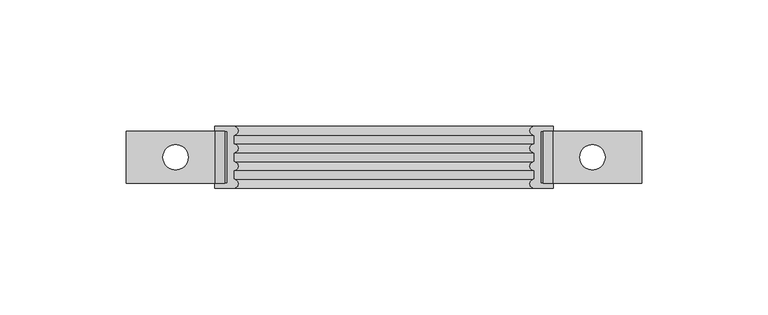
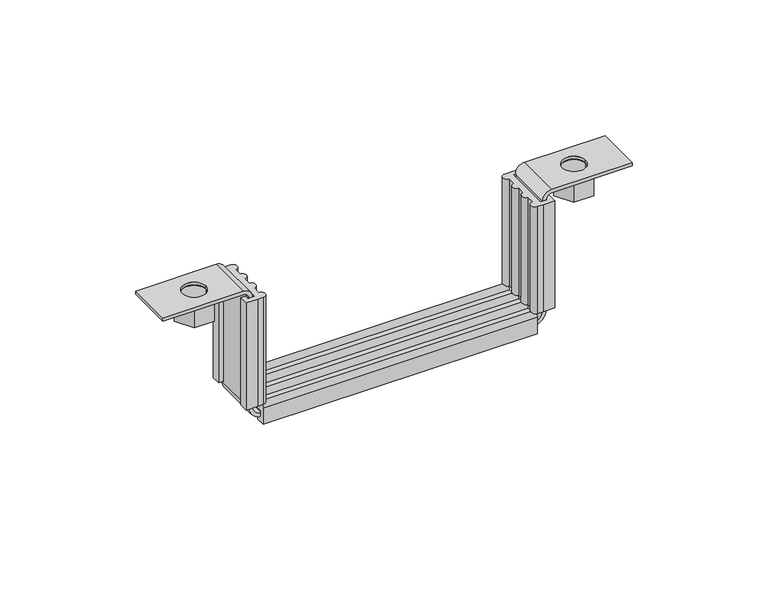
"""IFC4 building model written with IfcOpenShell, lengths in millimetres: pipe fitting geometry, AmancoWavin_ConexõesdeTubos_EsgotoSilentiumNãoUsarSuporteCaixa : Zincado."""

from ifc_helpers import new_model, si_unit, point, frame, frame_2d, origin, place, context, project, spatial, polyline, circle_curve, trimmed, segment, composite_curve, outline, extrude, source, transform, mapped, element, save
from ifc_brep_helpers import plane_surface, cylinder_surface, revolved_surface, advanced_brep


def pipe_fitting_c9efb842(model_context):
    return source(origin(), model_context, "Body", "SolidModel", [
        extrude(outline(polyline([(86.825, 7.5), (91.155127, 0.0), (86.825, -7.5), (78.164746, -7.5), (73.8346189, 0.0), (78.164746, 7.5), (86.825, 7.5)]), holes=[composite_curve([segment(trimmed(circle_curve(frame_2d((82.5, 0.0)), 5.0), [point((77.5, 0.0))], [point((87.5, 0.0))], True, "CARTESIAN"), True, "CONTINUOUS"), segment(trimmed(circle_curve(frame_2d((82.5, 0.0)), 5.0), [point((87.5, 0.0))], [point((77.5, 0.0))], True, "CARTESIAN"), True, "CONTINUOUS")], self_intersect=False)]), frame((0.0, 0.0, 47.75), z_axis=(0.0, 0.0, 1.0), x_axis=(1.0, 0.0, 0.0)), (0.0, 0.0, 1.0), 10.0),
        extrude(outline(polyline([(-78.175, 7.5), (-73.844873, 0.0), (-78.175, -7.5), (-86.835254, -7.5), (-91.1653811, 0.0), (-86.835254, 7.5), (-78.175, 7.5)]), holes=[composite_curve([segment(trimmed(circle_curve(frame_2d((-82.5, 0.0)), 5.0), [point((-87.5, 0.0))], [point((-77.5, 0.0))], True, "CARTESIAN"), True, "CONTINUOUS"), segment(trimmed(circle_curve(frame_2d((-82.5, 0.0)), 5.0), [point((-77.5, 0.0))], [point((-87.5, 0.0))], True, "CARTESIAN"), True, "CONTINUOUS")], self_intersect=False)]), frame((0.0, 0.0, 47.75), z_axis=(0.0, 0.0, 1.0), x_axis=(1.0, 0.0, 0.0)), (0.0, 0.0, 1.0), 10.0),
        extrude(outline(composite_curve([segment(polyline([(12.25, -3.25), (8.25, -3.25), (8.25, -1.25), (10.25, -1.25), (10.25, 1.75), (-10.25, 1.75), (-10.25, -1.25), (-8.25, -1.25), (-8.25, -3.25), (-12.25, -3.25), (-12.25, 4.25)]), True, "CONTINUOUS"), segment(trimmed(circle_curve(frame_2d((-10.5, 4.25)), 1.75), [point((-12.25, 4.25))], [point((-8.75, 4.25))], False, "CARTESIAN"), True, "CONTINUOUS"), segment(polyline([(-8.75, 4.25), (-5.25, 4.25)]), True, "CONTINUOUS"), segment(trimmed(circle_curve(frame_2d((-3.5, 4.25)), 1.75), [point((-5.25, 4.25))], [point((-1.75, 4.25))], False, "CARTESIAN"), True, "CONTINUOUS"), segment(polyline([(-1.75, 4.25), (1.75, 4.25)]), True, "CONTINUOUS"), segment(trimmed(circle_curve(frame_2d((3.5, 4.25)), 1.75), [point((1.75, 4.25))], [point((5.25, 4.25))], False, "CARTESIAN"), True, "CONTINUOUS"), segment(polyline([(5.25, 4.25), (8.75, 4.25)]), True, "CONTINUOUS"), segment(trimmed(circle_curve(frame_2d((10.5, 4.25)), 1.75), [point((8.75, 4.25))], [point((12.25, 4.25))], False, "CARTESIAN"), True, "CONTINUOUS"), segment(polyline([(12.25, 4.25), (12.25, -3.25)]), True, "CONTINUOUS")], self_intersect=False)), frame((-59.5, 0.0, 0.0), z_axis=(1.0, 0.0, 0.0), x_axis=(0.0, 1.0, 0.0)), (0.0, 0.0, 1.0), 119.0),
        extrude(outline(composite_curve([segment(polyline([(-62.0, 10.25), (-65.0, 10.25), (-65.0, 8.25), (-67.0, 8.25), (-67.0, 12.25), (-62.0, 12.25), (-59.5, 12.25)]), True, "CONTINUOUS"), segment(trimmed(circle_curve(frame_2d((-59.5, 10.5)), 1.75), [point((-59.5, 12.25))], [point((-59.5, 8.75))], False, "CARTESIAN"), True, "CONTINUOUS"), segment(polyline([(-59.5, 8.75), (-59.5, 5.25)]), True, "CONTINUOUS"), segment(trimmed(circle_curve(frame_2d((-59.5, 3.5)), 1.75), [point((-59.5, 5.25))], [point((-59.5, 1.75))], False, "CARTESIAN"), True, "CONTINUOUS"), segment(polyline([(-59.5, 1.75), (-59.5, -1.75)]), True, "CONTINUOUS"), segment(trimmed(circle_curve(frame_2d((-59.5, -3.5)), 1.75), [point((-59.5, -1.75))], [point((-59.5, -5.25))], False, "CARTESIAN"), True, "CONTINUOUS"), segment(polyline([(-59.5, -5.25), (-59.5, -8.75)]), True, "CONTINUOUS"), segment(trimmed(circle_curve(frame_2d((-59.5, -10.5)), 1.75), [point((-59.5, -8.75))], [point((-59.5, -12.25))], False, "CARTESIAN"), True, "CONTINUOUS"), segment(polyline([(-59.5, -12.25), (-62.0, -12.25), (-67.0, -12.25), (-67.0, -8.25), (-65.0, -8.25), (-65.0, -10.25), (-62.0, -10.25), (-62.0, 10.25)]), True, "CONTINUOUS")], self_intersect=False)), frame((0.0, 0.0, 6.0), z_axis=(0.0, 0.0, 1.0), x_axis=(1.0, 0.0, 0.0)), (0.0, 0.0, 1.0), 49.2),
        extrude(outline(composite_curve([segment(polyline([(62.0, 10.25), (62.0, -10.25), (65.0, -10.25), (65.0, -8.25), (67.0, -8.25), (67.0, -12.25), (62.0, -12.25), (59.5, -12.25)]), True, "CONTINUOUS"), segment(trimmed(circle_curve(frame_2d((59.5, -10.5)), 1.75), [point((59.5, -12.25))], [point((59.5, -8.75))], False, "CARTESIAN"), True, "CONTINUOUS"), segment(polyline([(59.5, -8.75), (59.5, -5.25)]), True, "CONTINUOUS"), segment(trimmed(circle_curve(frame_2d((59.5, -3.5)), 1.75), [point((59.5, -5.25))], [point((59.5, -1.75))], False, "CARTESIAN"), True, "CONTINUOUS"), segment(polyline([(59.5, -1.75), (59.5, 1.75)]), True, "CONTINUOUS"), segment(trimmed(circle_curve(frame_2d((59.5, 3.5)), 1.75), [point((59.5, 1.75))], [point((59.5, 5.25))], False, "CARTESIAN"), True, "CONTINUOUS"), segment(polyline([(59.5, 5.25), (59.5, 8.75)]), True, "CONTINUOUS"), segment(trimmed(circle_curve(frame_2d((59.5, 10.5)), 1.75), [point((59.5, 8.75))], [point((59.5, 12.25))], False, "CARTESIAN"), True, "CONTINUOUS"), segment(polyline([(59.5, 12.25), (62.0, 12.25), (67.0, 12.25), (67.0, 8.25), (65.0, 8.25), (65.0, 10.25), (62.0, 10.25)]), True, "CONTINUOUS")], self_intersect=False)), frame((0.0, 0.0, 6.0), z_axis=(0.0, 0.0, 1.0), x_axis=(1.0, 0.0, 0.0)), (0.0, 0.0, 1.0), 49.2),
        advanced_brep(
        [(-67.0, 10.25, 59.25), (-63.0, 10.25, 55.25), (-63.0, 10.25, 4.75), (-59.0, 10.25, 0.75), (59.0, 10.25, 0.75), (63.0, 10.25, 4.75), (63.0, 10.25, 55.25), (67.0, 10.25, 59.25), (102.0, 10.25, 59.25), (102.0, 10.25, 57.75), (67.0, 10.25, 57.75), (64.5, 10.25, 55.25), (64.5, 10.25, 4.75), (59.0, 10.25, -0.75), (-59.0, 10.25, -0.75), (-64.5, 10.25, 4.75), (-64.5, 10.25, 55.25), (-67.0, 10.25, 57.75), (-102.0, 10.25, 57.75), (-102.0, 10.25, 59.25), (-67.0, -10.25, 59.25), (-102.0, -10.25, 59.25), (-102.0, -10.25, 57.75), (-67.0, -10.25, 57.75), (-64.5, -10.25, 55.25), (-64.5, -10.25, 4.75), (-59.0, -10.25, -0.75), (59.0, -10.25, -0.75), (64.5, -10.25, 4.75), (64.5, -10.25, 55.25), (67.0, -10.25, 57.75), (102.0, -10.25, 57.75), (102.0, -10.25, 59.25), (67.0, -10.25, 59.25), (63.0, -10.25, 55.25), (63.0, -10.25, 4.75), (59.0, -10.25, 0.75), (-59.0, -10.25, 0.75), (-63.0, -10.25, 4.75), (-63.0, -10.25, 55.25), (-77.5, 0.0, 59.25), (-87.5, 0.0, 59.25), (-87.5, 0.0, 57.75), (-77.5, 0.0, 57.75), (77.5, 0.0, 57.75), (87.5, 0.0, 57.75), (87.5, 0.0, 59.25), (77.5, 0.0, 59.25)],
        [
            (0, 1, circle_curve(frame((-67.0, 10.25, 55.25), z_axis=(0.0, 1.0, 0.0), x_axis=(1.0, 0.0, 0.0)), 4.0)),
            (1, 2),
            (2, 3, circle_curve(frame((-59.0, 10.25, 4.75), z_axis=(0.0, -1.0, 0.0), x_axis=(1.0, 0.0, 0.0)), 4.0)),
            (3, 4),
            (4, 5, circle_curve(frame((59.0, 10.25, 4.75), z_axis=(0.0, -1.0, 0.0), x_axis=(1.0, 0.0, 0.0)), 4.0)),
            (5, 6),
            (6, 7, circle_curve(frame((67.0, 10.25, 55.25), z_axis=(0.0, 1.0, 0.0), x_axis=(1.0, 0.0, 0.0)), 4.0)),
            (7, 8),
            (8, 9),
            (9, 10),
            (10, 11, circle_curve(frame((67.0, 10.25, 55.25), z_axis=(0.0, -1.0, 0.0), x_axis=(1.0, 0.0, 0.0)), 2.5)),
            (11, 12),
            (12, 13, circle_curve(frame((59.0, 10.25, 4.75), z_axis=(0.0, 1.0, 0.0), x_axis=(1.0, 0.0, 0.0)), 5.5)),
            (13, 14),
            (14, 15, circle_curve(frame((-59.0, 10.25, 4.75), z_axis=(0.0, 1.0, 0.0), x_axis=(1.0, 0.0, 0.0)), 5.5)),
            (15, 16),
            (16, 17, circle_curve(frame((-67.0, 10.25, 55.25), z_axis=(0.0, -1.0, 0.0), x_axis=(1.0, 0.0, 0.0)), 2.5)),
            (17, 18),
            (18, 19),
            (19, 0),
            (20, 21),
            (21, 22),
            (22, 23),
            (23, 24, circle_curve(frame((-67.0, -10.25, 55.25), z_axis=(0.0, 1.0, 0.0), x_axis=(1.0, 0.0, 0.0)), 2.5)),
            (24, 25),
            (25, 26, circle_curve(frame((-59.0, -10.25, 4.75), z_axis=(0.0, -1.0, 0.0), x_axis=(1.0, 0.0, 0.0)), 5.5)),
            (26, 27),
            (27, 28, circle_curve(frame((59.0, -10.25, 4.75), z_axis=(0.0, -1.0, 0.0), x_axis=(1.0, 0.0, 0.0)), 5.5)),
            (28, 29),
            (29, 30, circle_curve(frame((67.0, -10.25, 55.25), z_axis=(0.0, 1.0, 0.0), x_axis=(1.0, 0.0, 0.0)), 2.5)),
            (30, 31),
            (31, 32),
            (32, 33),
            (33, 34, circle_curve(frame((67.0, -10.25, 55.25), z_axis=(0.0, -1.0, 0.0), x_axis=(1.0, 0.0, 0.0)), 4.0)),
            (34, 35),
            (35, 36, circle_curve(frame((59.0, -10.25, 4.75), z_axis=(0.0, 1.0, 0.0), x_axis=(1.0, 0.0, 0.0)), 4.0)),
            (36, 37),
            (37, 38, circle_curve(frame((-59.0, -10.25, 4.75), z_axis=(0.0, 1.0, 0.0), x_axis=(1.0, 0.0, 0.0)), 4.0)),
            (38, 39),
            (39, 20, circle_curve(frame((-67.0, -10.25, 55.25), z_axis=(0.0, -1.0, 0.0), x_axis=(1.0, 0.0, 0.0)), 4.0)),
            (19, 21),
            (20, 0),
            (40, 41, circle_curve(frame((-82.5, 0.0, 59.25), z_axis=(0.0, 0.0, -1.0), x_axis=(1.0, 0.0, 0.0)), 5.0)),
            (41, 40, circle_curve(frame((-82.5, 0.0, 59.25), z_axis=(0.0, 0.0, -1.0), x_axis=(1.0, 0.0, 0.0)), 5.0)),
            (18, 22),
            (17, 23),
            (42, 43, circle_curve(frame((-82.5, 0.0, 57.75), z_axis=(0.0, 0.0, 1.0), x_axis=(1.0, 0.0, 0.0)), 5.0)),
            (43, 42, circle_curve(frame((-82.5, 0.0, 57.75), z_axis=(0.0, 0.0, 1.0), x_axis=(1.0, 0.0, 0.0)), 5.0)),
            (16, 24),
            (15, 25),
            (14, 26),
            (13, 27),
            (12, 28),
            (11, 29),
            (10, 30),
            (9, 31),
            (44, 45, circle_curve(frame((82.5, 0.0, 57.75), z_axis=(0.0, 0.0, 1.0), x_axis=(1.0, 0.0, 0.0)), 5.0)),
            (45, 44, circle_curve(frame((82.5, 0.0, 57.75), z_axis=(0.0, 0.0, 1.0), x_axis=(1.0, 0.0, 0.0)), 5.0)),
            (8, 32),
            (7, 33),
            (46, 47, circle_curve(frame((82.5, 0.0, 59.25), z_axis=(0.0, 0.0, -1.0), x_axis=(1.0, 0.0, 0.0)), 5.0)),
            (47, 46, circle_curve(frame((82.5, 0.0, 59.25), z_axis=(0.0, 0.0, -1.0), x_axis=(1.0, 0.0, 0.0)), 5.0)),
            (6, 34),
            (5, 35),
            (4, 36),
            (3, 37),
            (2, 38),
            (1, 39),
            (42, 41),
            (40, 43),
            (44, 47),
            (46, 45),
        ],
        [
            plane_surface(frame((-102.0, 10.25, 59.25), z_axis=(0.0, 1.0, 0.0), x_axis=(1.0, 0.0, 0.0))),
            plane_surface(frame((-102.0, -10.25, 59.25), z_axis=(0.0, -1.0, 0.0), x_axis=(-1.0, 0.0, 0.0))),
            plane_surface(frame((-67.0, -10.25, 59.25), z_axis=(0.0, 0.0, 1.0), x_axis=(0.0, 1.0, 0.0))),
            plane_surface(frame((-102.0, -10.25, 59.25), z_axis=(-1.0, 0.0, 0.0), x_axis=(0.0, 1.0, 0.0))),
            plane_surface(frame((-102.0, -10.25, 57.75), z_axis=(0.0, 0.0, -1.0), x_axis=(0.0, 1.0, 0.0))),
            revolved_surface(polyline([(-64.5, 10.25, 55.25), (-64.5, -10.25, 55.25)]), (-67.0, 10.25, 55.25), (0.0, 1.0, 0.0)),
            plane_surface(frame((-64.5, -10.25, 55.25), z_axis=(-1.0, 0.0, 0.0), x_axis=(0.0, 1.0, 0.0))),
            cylinder_surface(frame((-59.0, 10.25, 4.75), z_axis=(0.0, -1.0, 0.0), x_axis=(1.0, 0.0, 0.0)), 5.5),
            plane_surface(frame((-59.0, -10.25, -0.75), z_axis=(0.0, 0.0, -1.0), x_axis=(0.0, 1.0, 0.0))),
            cylinder_surface(frame((59.0, 10.25, 4.75), z_axis=(0.0, -1.0, 0.0), x_axis=(1.0, 0.0, 0.0)), 5.5),
            plane_surface(frame((64.5, -10.25, 4.75), z_axis=(1.0, 0.0, 0.0), x_axis=(0.0, 1.0, 0.0))),
            revolved_surface(polyline([(69.5, 10.25, 55.25), (69.5, -10.25, 55.25)]), (67.0, 10.25, 55.25), (0.0, 1.0, 0.0)),
            plane_surface(frame((67.0, -10.25, 57.75), z_axis=(0.0, 0.0, -1.0), x_axis=(0.0, 1.0, 0.0))),
            plane_surface(frame((102.0, -10.25, 57.75), z_axis=(1.0, 0.0, 0.0), x_axis=(0.0, 1.0, 0.0))),
            plane_surface(frame((102.0, -10.25, 59.25), z_axis=(0.0, 0.0, 1.0), x_axis=(0.0, 1.0, 0.0))),
            cylinder_surface(frame((67.0, 10.25, 55.25), z_axis=(0.0, -1.0, 0.0), x_axis=(1.0, 0.0, 0.0)), 4.0),
            plane_surface(frame((63.0, -10.25, 55.25), z_axis=(-1.0, 0.0, 0.0), x_axis=(0.0, 1.0, 0.0))),
            revolved_surface(polyline([(63.0, 10.25, 4.75), (63.0, -10.25, 4.75)]), (59.0, 10.25, 4.75), (0.0, 1.0, 0.0)),
            plane_surface(frame((59.0, -10.25, 0.75), z_axis=(0.0, 0.0, 1.0), x_axis=(0.0, 1.0, 0.0))),
            revolved_surface(polyline([(-55.0, 10.25, 4.75), (-55.0, -10.25, 4.75)]), (-59.0, 10.25, 4.75), (0.0, 1.0, 0.0)),
            plane_surface(frame((-63.0, -10.25, 4.75), z_axis=(1.0, 0.0, 0.0), x_axis=(0.0, 1.0, 0.0))),
            cylinder_surface(frame((-67.0, 10.25, 55.25), z_axis=(0.0, -1.0, 0.0), x_axis=(1.0, 0.0, 0.0)), 4.0),
            revolved_surface(polyline([(-77.5, 0.0, 59.25), (-77.5, 0.0, 57.75)]), (-82.5, 0.0, 57.0), (0.0, 0.0, 1.0)),
            revolved_surface(polyline([(87.5, 0.0, 59.25), (87.5, 0.0, 57.75)]), (82.5, 0.0, 0.0), (0.0, 0.0, 1.0)),
        ],
        [
            (0, [[1, 2, 3, 4, 5, 6, 7, 8, 9, 10, 11, 12, 13, 14, 15, 16, 17, 18, 19, 20]]),
            (1, [[21, 22, 23, 24, 25, 26, 27, 28, 29, 30, 31, 32, 33, 34, 35, 36, 37, 38, 39, 40]]),
            (2, [[-20, 41, -21, 42], [43, 44]]),
            (3, [[-19, 45, -22, -41]]),
            (4, [[-18, 46, -23, -45], [47, 48]]),
            (5, [[-17, 49, -24, -46]]),
            (6, [[-16, 50, -25, -49]]),
            (7, [[-15, 51, -26, -50]]),
            (8, [[-14, 52, -27, -51]]),
            (9, [[-13, 53, -28, -52]]),
            (10, [[-12, 54, -29, -53]]),
            (11, [[-11, 55, -30, -54]]),
            (12, [[-10, 56, -31, -55], [57, 58]]),
            (13, [[-9, 59, -32, -56]]),
            (14, [[-8, 60, -33, -59], [61, 62]]),
            (15, [[-7, 63, -34, -60]]),
            (16, [[-6, 64, -35, -63]]),
            (17, [[-5, 65, -36, -64]]),
            (18, [[-4, 66, -37, -65]]),
            (19, [[-3, 67, -38, -66]]),
            (20, [[-2, 68, -39, -67]]),
            (21, [[-1, -42, -40, -68]]),
            (22, [[69, -43, 70, -47]]),
            (22, [[-69, -48, -70, -44]]),
            (23, [[71, -61, 72, -57]]),
            (23, [[-71, -58, -72, -62]]),
        ],
    ),
    ])


if __name__ == "__main__":
    model = new_model("IFC4")
    model_context = context("Model", 3, world=origin())
    ifc_project = project(units=[si_unit("LENGTHUNIT", "METRE", prefix="MILLI")], contexts=[model_context])
    site = spatial("IfcSite", under=ifc_project)
    building = spatial("IfcBuilding", under=site)
    placement = place(None, origin())
    pipe_fitting_shape = pipe_fitting_c9efb842(model_context)
    element("IfcPipeFitting", 1, ObjectType="AmancoWavin_ConexõesdeTubos_EsgotoSilentiumNãoUsarSuporteCaixa : Zincado", at=placement, inside=building, context=model_context, shape_type="MappedRepresentation", body=[
        mapped(pipe_fitting_shape, transform((0.0, 0.0, 0.0), x_axis=(1.0, 0.0, 0.0), y_axis=(0.0, 1.0, 0.0), z_axis=(0.0, 0.0, 1.0))),
    ])
    save(model, "model.ifc")
